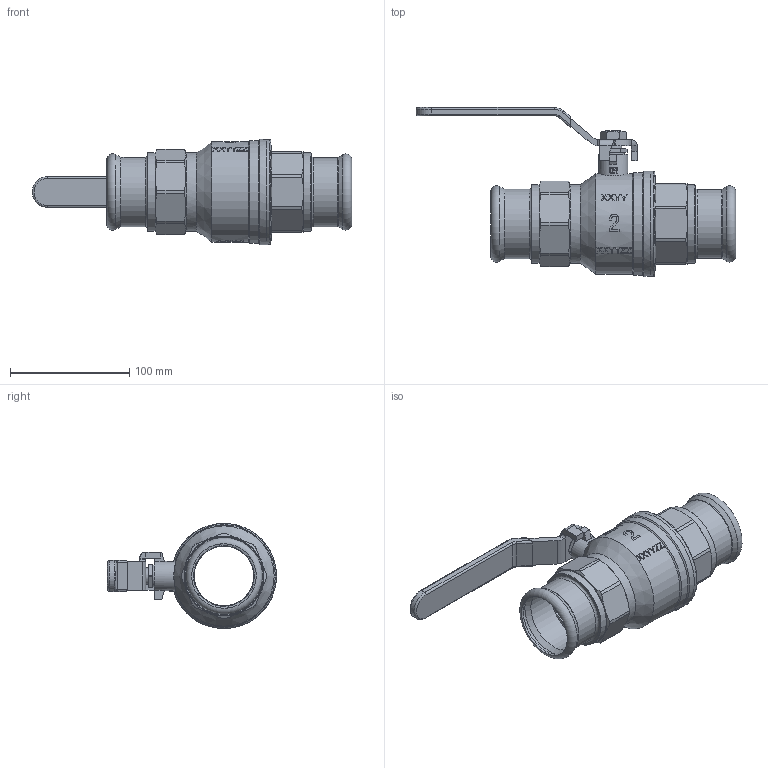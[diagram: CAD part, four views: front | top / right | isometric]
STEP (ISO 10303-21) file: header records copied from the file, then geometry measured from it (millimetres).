
FILE_DESCRIPTION((''),'2;1');
FILE_NAME('P:\Fastrack\53972_CRANE 3D\Press Fit\D171APF\D171A-PF\D171A-PF-54MM\D171A-PF-54MM.stp','2012-01-18T09:29:53',('dcole'),(''),'Autodesk Inventor 2008','Autodesk Inventor 2008','');
FILE_SCHEMA(('AUTOMOTIVE_DESIGN { 1 0 10303 214 1 1 1 1 }'));
Length unit declared in the file: millimetre
Products named in the file (1): D171A-PF-54MM
Bounding box: 267.5 x 141.5 x 88 mm (x, y, z)
Volume: 352465.2 mm3; surface area: 148048.7 mm2
Topology: 1 solids, 8 shells, 860 faces, 2551 edges, 1825 vertices
Faces by surface type: plane 423, bspline 201, cylinder 133, cone 81, torus 19, sphere 3
Full cylindrical faces by diameter (mm): 3 x2, 14 x1, 14.1 x2, 14.5 x1, 16 x1, 16.5 x1, 18 x1, 18.3 x1, 18.5 x2, 24.5 x1, 38 x1, 50 x5, 54 x4, 56.2 x2, 56.656 x2, 58 x2, 60 x2, 60.2 x2, 61 x4, 65.8 x2, 66 x1, 73 x1, 79 x1, 81 x1, 81.2 x1, 84 x1, 86 x1, 88 x2
Entity records: 66659 total; most frequent: CARTESIAN_POINT 44770, ORIENTED_EDGE 4762, DIRECTION 3489, EDGE_CURVE 2381, VERTEX_POINT 1771, AXIS2_PLACEMENT_3D 1166, VECTOR 1157, LINE 1157
